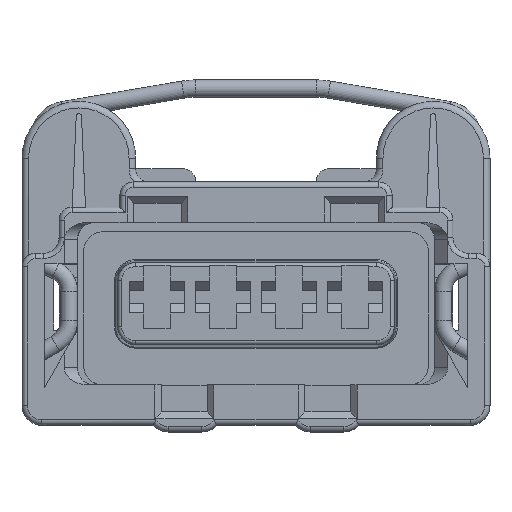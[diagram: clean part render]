
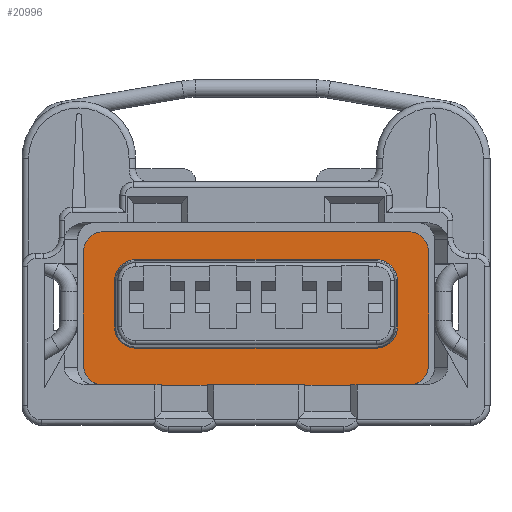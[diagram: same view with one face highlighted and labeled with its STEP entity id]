
A CAD part, top view. The second image highlights one B-rep face of the part: STEP entity #20996.
In plain terms, the highlighted planar face has unit normal (0, 0, 1).
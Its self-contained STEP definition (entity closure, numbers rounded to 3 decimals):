
#521=DIRECTION('',(1.,0.,0.));
#522=VECTOR('',#521,4.4);
#523=CARTESIAN_POINT('',(-11.55,-6.65,-11.6));
#524=LINE('',#523,#522);
#598=DIRECTION('',(1.,0.,0.));
#599=VECTOR('',#598,4.4);
#600=CARTESIAN_POINT('',(7.15,-6.65,-11.6));
#601=LINE('',#600,#599);
#605=DIRECTION('',(1.,0.,0.));
#606=VECTOR('',#605,7.4);
#607=CARTESIAN_POINT('',(-3.7,-6.65,-11.6));
#608=LINE('',#607,#606);
#626=CARTESIAN_POINT('',(-11.55,-5.15,-11.6));
#627=DIRECTION('',(0.,0.,1.));
#628=DIRECTION('',(-1.,0.,0.));
#629=AXIS2_PLACEMENT_3D('',#626,#627,#628);
#634=DIRECTION('',(0.,-1.,0.));
#635=VECTOR('',#634,8.6);
#636=CARTESIAN_POINT('',(-13.05,3.45,-11.6));
#637=LINE('',#636,#635);
#641=CARTESIAN_POINT('',(-11.55,3.45,-11.6));
#642=DIRECTION('',(0.,0.,1.));
#643=DIRECTION('',(0.,1.,0.));
#644=AXIS2_PLACEMENT_3D('',#641,#642,#643);
#649=DIRECTION('',(-1.,0.,0.));
#650=VECTOR('',#649,23.1);
#651=CARTESIAN_POINT('',(11.55,4.95,-11.6));
#652=LINE('',#651,#650);
#656=CARTESIAN_POINT('',(11.55,3.45,-11.6));
#657=DIRECTION('',(0.,0.,1.));
#658=DIRECTION('',(1.,0.,0.));
#659=AXIS2_PLACEMENT_3D('',#656,#657,#658);
#664=DIRECTION('',(0.,1.,0.));
#665=VECTOR('',#664,8.6);
#666=CARTESIAN_POINT('',(13.05,-5.15,-11.6));
#667=LINE('',#666,#665);
#671=CARTESIAN_POINT('',(11.55,-5.15,-11.6));
#672=DIRECTION('',(0.,0.,1.));
#673=DIRECTION('',(0.,-1.,0.));
#674=AXIS2_PLACEMENT_3D('',#671,#672,#673);
#679=DIRECTION('',(1.,0.,0.));
#680=VECTOR('',#679,3.45);
#681=CARTESIAN_POINT('',(3.7,-6.65,-11.6));
#682=LINE('',#681,#680);
#686=DIRECTION('',(1.,0.,0.));
#687=VECTOR('',#686,3.45);
#688=CARTESIAN_POINT('',(-7.15,-6.65,-11.6));
#689=LINE('',#688,#687);
#693=CARTESIAN_POINT('',(9.1,1.25,-11.6));
#694=DIRECTION('',(0.,0.,1.));
#695=DIRECTION('',(1.,0.,0.));
#696=AXIS2_PLACEMENT_3D('',#693,#694,#695);
#716=DIRECTION('',(0.,-1.,0.));
#717=VECTOR('',#716,3.5);
#718=CARTESIAN_POINT('',(10.7,1.25,-11.6));
#719=LINE('',#718,#717);
#737=CARTESIAN_POINT('',(9.1,-2.25,-11.6));
#738=DIRECTION('',(0.,0.,1.));
#739=DIRECTION('',(0.,-1.,0.));
#740=AXIS2_PLACEMENT_3D('',#737,#738,#739);
#760=DIRECTION('',(-1.,0.,0.));
#761=VECTOR('',#760,18.2);
#762=CARTESIAN_POINT('',(9.1,-3.85,-11.6));
#763=LINE('',#762,#761);
#781=CARTESIAN_POINT('',(-9.1,-2.25,-11.6));
#782=DIRECTION('',(0.,0.,1.));
#783=DIRECTION('',(-1.,0.,0.));
#784=AXIS2_PLACEMENT_3D('',#781,#782,#783);
#804=DIRECTION('',(0.,1.,0.));
#805=VECTOR('',#804,3.5);
#806=CARTESIAN_POINT('',(-10.7,-2.25,-11.6));
#807=LINE('',#806,#805);
#825=CARTESIAN_POINT('',(-9.1,1.25,-11.6));
#826=DIRECTION('',(0.,0.,1.));
#827=DIRECTION('',(0.,1.,0.));
#828=AXIS2_PLACEMENT_3D('',#825,#826,#827);
#848=DIRECTION('',(1.,0.,0.));
#849=VECTOR('',#848,18.2);
#850=CARTESIAN_POINT('',(-9.1,2.85,-11.6));
#851=LINE('',#850,#849);
#18429=CARTESIAN_POINT('',(-11.55,4.95,-11.6));
#18430=CARTESIAN_POINT('',(-13.05,3.45,-11.6));
#18431=VERTEX_POINT('',#18429);
#18432=VERTEX_POINT('',#18430);
#18433=CARTESIAN_POINT('',(-13.05,-5.15,-11.6));
#18434=VERTEX_POINT('',#18433);
#18435=CARTESIAN_POINT('',(13.05,-5.15,-11.6));
#18436=CARTESIAN_POINT('',(13.05,3.45,-11.6));
#18437=VERTEX_POINT('',#18435);
#18438=VERTEX_POINT('',#18436);
#18439=CARTESIAN_POINT('',(11.55,4.95,-11.6));
#18440=VERTEX_POINT('',#18439);
#18457=CARTESIAN_POINT('',(10.7,1.25,-11.6));
#18458=CARTESIAN_POINT('',(9.1,2.85,-11.6));
#18459=VERTEX_POINT('',#18457);
#18460=VERTEX_POINT('',#18458);
#18461=CARTESIAN_POINT('',(10.7,-2.25,-11.6));
#18462=VERTEX_POINT('',#18461);
#18463=CARTESIAN_POINT('',(9.1,-3.85,-11.6));
#18464=VERTEX_POINT('',#18463);
#18465=CARTESIAN_POINT('',(-9.1,-3.85,-11.6));
#18466=VERTEX_POINT('',#18465);
#18467=CARTESIAN_POINT('',(-10.7,-2.25,-11.6));
#18468=VERTEX_POINT('',#18467);
#18469=CARTESIAN_POINT('',(-10.7,1.25,-11.6));
#18470=VERTEX_POINT('',#18469);
#18471=CARTESIAN_POINT('',(-9.1,2.85,-11.6));
#18472=VERTEX_POINT('',#18471);
#19049=CARTESIAN_POINT('',(-11.55,-6.65,-11.6));
#19050=CARTESIAN_POINT('',(-7.15,-6.65,-11.6));
#19051=VERTEX_POINT('',#19049);
#19052=VERTEX_POINT('',#19050);
#19053=CARTESIAN_POINT('',(11.55,-6.65,-11.6));
#19054=VERTEX_POINT('',#19053);
#20523=CARTESIAN_POINT('',(3.7,-6.65,-11.6));
#20524=VERTEX_POINT('',#20523);
#20525=CARTESIAN_POINT('',(7.15,-6.65,-11.6));
#20526=VERTEX_POINT('',#20525);
#20527=CARTESIAN_POINT('',(-3.7,-6.65,-11.6));
#20528=VERTEX_POINT('',#20527);
#20950=CARTESIAN_POINT('',(0.,0.,-11.6));
#20951=DIRECTION('',(0.,0.,1.));
#20952=DIRECTION('',(1.,0.,0.));
#20953=AXIS2_PLACEMENT_3D('',#20950,#20951,#20952);
#20954=PLANE('',#20953);
#20956=ORIENTED_EDGE('',*,*,#20955,.F.);
#20958=ORIENTED_EDGE('',*,*,#20957,.F.);
#20960=ORIENTED_EDGE('',*,*,#20959,.F.);
#20962=ORIENTED_EDGE('',*,*,#20961,.F.);
#20964=ORIENTED_EDGE('',*,*,#20963,.F.);
#20966=ORIENTED_EDGE('',*,*,#20965,.F.);
#20968=ORIENTED_EDGE('',*,*,#20967,.F.);
#20969=ORIENTED_EDGE('',*,*,#20926,.F.);
#20971=ORIENTED_EDGE('',*,*,#20970,.F.);
#20972=ORIENTED_EDGE('',*,*,#20936,.F.);
#20974=ORIENTED_EDGE('',*,*,#20973,.F.);
#20975=ORIENTED_EDGE('',*,*,#20890,.F.);
#20976=EDGE_LOOP('',(#20956,#20958,#20960,#20962,#20964,#20966,#20968,#20969,
#20971,#20972,#20974,#20975));
#20977=FACE_OUTER_BOUND('',#20976,.F.);
#20979=ORIENTED_EDGE('',*,*,#20978,.T.);
#20981=ORIENTED_EDGE('',*,*,#20980,.F.);
#20983=ORIENTED_EDGE('',*,*,#20982,.T.);
#20985=ORIENTED_EDGE('',*,*,#20984,.F.);
#20987=ORIENTED_EDGE('',*,*,#20986,.T.);
#20989=ORIENTED_EDGE('',*,*,#20988,.F.);
#20991=ORIENTED_EDGE('',*,*,#20990,.T.);
#20993=ORIENTED_EDGE('',*,*,#20992,.F.);
#20994=EDGE_LOOP('',(#20979,#20981,#20983,#20985,#20987,#20989,#20991,#20993));
#20995=FACE_BOUND('',#20994,.F.);
#630=CIRCLE('',#629,1.5);
#645=CIRCLE('',#644,1.5);
#660=CIRCLE('',#659,1.5);
#675=CIRCLE('',#674,1.5);
#697=CIRCLE('',#696,1.6);
#741=CIRCLE('',#740,1.6);
#785=CIRCLE('',#784,1.6);
#829=CIRCLE('',#828,1.6);
#20890=EDGE_CURVE('',#19051,#19052,#524,.T.);
#20926=EDGE_CURVE('',#20526,#19054,#601,.T.);
#20936=EDGE_CURVE('',#20528,#20524,#608,.T.);
#20955=EDGE_CURVE('',#18434,#19051,#630,.T.);
#20957=EDGE_CURVE('',#18432,#18434,#637,.T.);
#20959=EDGE_CURVE('',#18431,#18432,#645,.T.);
#20961=EDGE_CURVE('',#18440,#18431,#652,.T.);
#20963=EDGE_CURVE('',#18438,#18440,#660,.T.);
#20965=EDGE_CURVE('',#18437,#18438,#667,.T.);
#20967=EDGE_CURVE('',#19054,#18437,#675,.T.);
#20970=EDGE_CURVE('',#20524,#20526,#682,.T.);
#20973=EDGE_CURVE('',#19052,#20528,#689,.T.);
#20978=EDGE_CURVE('',#18459,#18460,#697,.T.);
#20980=EDGE_CURVE('',#18472,#18460,#851,.T.);
#20982=EDGE_CURVE('',#18472,#18470,#829,.T.);
#20984=EDGE_CURVE('',#18468,#18470,#807,.T.);
#20986=EDGE_CURVE('',#18468,#18466,#785,.T.);
#20988=EDGE_CURVE('',#18464,#18466,#763,.T.);
#20990=EDGE_CURVE('',#18464,#18462,#741,.T.);
#20992=EDGE_CURVE('',#18459,#18462,#719,.T.);
#20996=ADVANCED_FACE('',(#20977,#20995),#20954,.T.);
